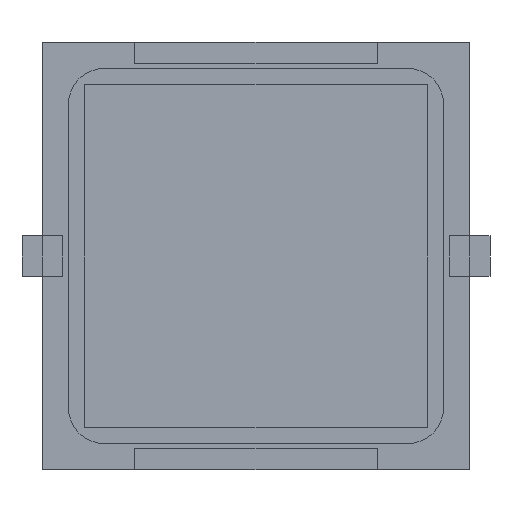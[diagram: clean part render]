
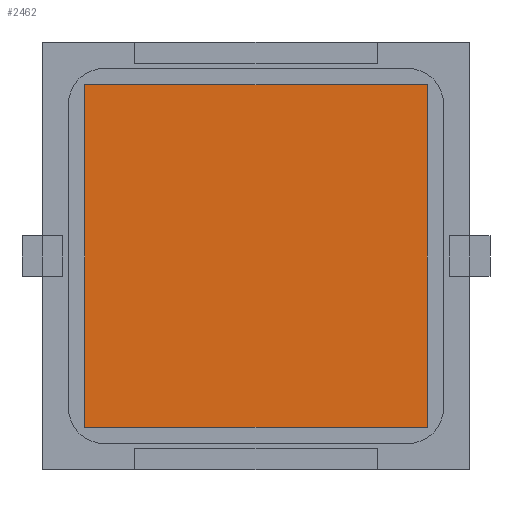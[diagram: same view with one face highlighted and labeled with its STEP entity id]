
A CAD part, front view. The second image highlights one B-rep face of the part: STEP entity #2462.
In plain terms, the highlighted planar face has unit normal (0, -1, 0).
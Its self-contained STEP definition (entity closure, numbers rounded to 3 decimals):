
#242 = LINE ( 'NONE', #679, #1121 ) ;
#679 = CARTESIAN_POINT ( 'NONE',  ( -8.5, -0.1, -8.5 ) ) ;
#843 = DIRECTION ( 'NONE',  ( 1., 0., 0. ) ) ;
#1027 = EDGE_CURVE ( 'NONE', #2422, #4217, #2106, .T. ) ;
#1092 = CARTESIAN_POINT ( 'NONE',  ( -8.5, -0.1, 8.5 ) ) ;
#1121 = VECTOR ( 'NONE', #3996, 1000. ) ;
#1231 = CARTESIAN_POINT ( 'NONE',  ( 8.5, -0.1, 8.5 ) ) ;
#1354 = PLANE ( 'NONE',  #4813 ) ;
#1371 = CARTESIAN_POINT ( 'NONE',  ( -8.5, -0.1, 8.5 ) ) ;
#1413 = DIRECTION ( 'NONE',  ( 0., 0., 1. ) ) ;
#1485 = ORIENTED_EDGE ( 'NONE', *, *, #4148, .F. ) ;
#1568 = LINE ( 'NONE', #4190, #3508 ) ;
#1854 = DIRECTION ( 'NONE',  ( 0., 0., 1. ) ) ;
#1889 = EDGE_CURVE ( 'NONE', #2156, #2422, #242, .T. ) ;
#1989 = VECTOR ( 'NONE', #843, 1000. ) ;
#2042 = DIRECTION ( 'NONE',  ( 0., 0., -1. ) ) ;
#2106 = LINE ( 'NONE', #3280, #2925 ) ;
#2156 = VERTEX_POINT ( 'NONE', #3394 ) ;
#2368 = CARTESIAN_POINT ( 'NONE',  ( -8.5, -0.1, 8.5 ) ) ;
#2422 = VERTEX_POINT ( 'NONE', #2574 ) ;
#2462 = ADVANCED_FACE ( 'NONE', ( #4742 ), #1354, .F. ) ;
#2574 = CARTESIAN_POINT ( 'NONE',  ( -8.5, -0.1, -8.5 ) ) ;
#2925 = VECTOR ( 'NONE', #1413, 1000. ) ;
#3280 = CARTESIAN_POINT ( 'NONE',  ( -8.5, -0.1, -8.5 ) ) ;
#3394 = CARTESIAN_POINT ( 'NONE',  ( 8.5, -0.1, -8.5 ) ) ;
#3474 = ORIENTED_EDGE ( 'NONE', *, *, #1889, .F. ) ;
#3508 = VECTOR ( 'NONE', #2042, 1000. ) ;
#3996 = DIRECTION ( 'NONE',  ( -1., 0., 0. ) ) ;
#4148 = EDGE_CURVE ( 'NONE', #4468, #2156, #1568, .T. ) ;
#4190 = CARTESIAN_POINT ( 'NONE',  ( 8.5, -0.1, -8.5 ) ) ;
#4205 = ORIENTED_EDGE ( 'NONE', *, *, #4455, .F. ) ;
#4217 = VERTEX_POINT ( 'NONE', #1371 ) ;
#4245 = EDGE_LOOP ( 'NONE', ( #4653, #3474, #1485, #4205 ) ) ;
#4351 = DIRECTION ( 'NONE',  ( 0., 1., 0. ) ) ;
#4455 = EDGE_CURVE ( 'NONE', #4217, #4468, #4591, .T. ) ;
#4468 = VERTEX_POINT ( 'NONE', #1231 ) ;
#4591 = LINE ( 'NONE', #2368, #1989 ) ;
#4653 = ORIENTED_EDGE ( 'NONE', *, *, #1027, .F. ) ;
#4742 = FACE_OUTER_BOUND ( 'NONE', #4245, .T. ) ;
#4813 = AXIS2_PLACEMENT_3D ( 'NONE', #1092, #4351, #1854 ) ;
